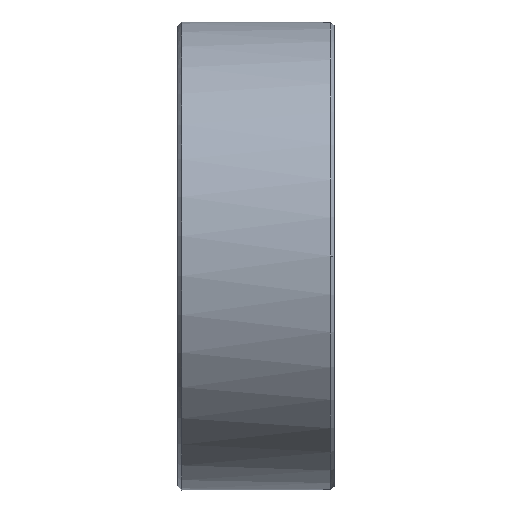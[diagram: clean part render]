
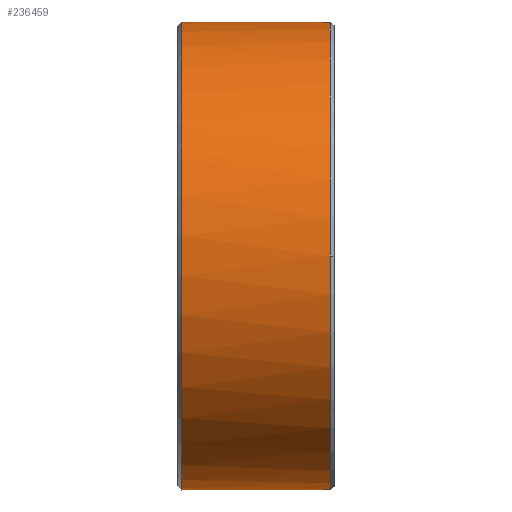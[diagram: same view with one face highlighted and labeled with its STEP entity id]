
A CAD part, left-side view. The second image highlights one B-rep face of the part: STEP entity #236459.
In plain terms, the highlighted cylindrical face has radius 38.1 mm (diameter 76.2 mm), a partial arc.
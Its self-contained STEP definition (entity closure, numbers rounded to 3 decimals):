
#2190 = CIRCLE ( 'NONE', #2205, 38.1 ) ;
#2205 = AXIS2_PLACEMENT_3D ( 'NONE', #68922, #68924, #68926 ) ;
#2412 = CIRCLE ( 'NONE', #2415, 38.1 ) ;
#2414 = VECTOR ( 'NONE', #69944, 1000. ) ;
#2415 = AXIS2_PLACEMENT_3D ( 'NONE', #69934, #69937, #69940 ) ;
#2417 = CIRCLE ( 'NONE', #119559, 38.1 ) ;
#5814 = EDGE_CURVE ( 'NONE', #174808, #174031, #2190, .T. ) ;
#6026 = EDGE_CURVE ( 'NONE', #175181, #174775, #2412, .T. ) ;
#6028 = EDGE_CURVE ( 'NONE', #174775, #174808, #69916, .T. ) ;
#6031 = EDGE_CURVE ( 'NONE', #174031, #175247, #2417, .T. ) ;
#6033 = EDGE_CURVE ( 'NONE', #175247, #175181, #69929, .T. ) ;
#53840 = CARTESIAN_POINT ( 'NONE',  ( 12.474, 24.8, -36. ) ) ;
#53996 = CARTESIAN_POINT ( 'NONE',  ( 12.474, 0.6, -36. ) ) ;
#61072 = EDGE_LOOP ( 'NONE', ( #210517, #210512, #210507, #210500, #210494 ) ) ;
#68922 = CARTESIAN_POINT ( 'NONE',  ( 0., 0.6, 0. ) ) ;
#68924 = DIRECTION ( 'NONE',  ( 0., 1., 0. ) ) ;
#68926 = DIRECTION ( 'NONE',  ( 0., 0., 1. ) ) ;
#69916 = LINE ( 'NONE', #69919, #2414 ) ;
#69919 = CARTESIAN_POINT ( 'NONE',  ( -12.474, 0., -36. ) ) ;
#69929 = LINE ( 'NONE', #69931, #120708 ) ;
#69931 = CARTESIAN_POINT ( 'NONE',  ( 12.474, 0., -36. ) ) ;
#69934 = CARTESIAN_POINT ( 'NONE',  ( 0., 24.8, 0. ) ) ;
#69937 = DIRECTION ( 'NONE',  ( 0., -1., 0. ) ) ;
#69940 = DIRECTION ( 'NONE',  ( 0., 0., -1. ) ) ;
#69944 = DIRECTION ( 'NONE',  ( 0., -1., 0. ) ) ;
#69956 = CARTESIAN_POINT ( 'NONE',  ( 0., 0.6, 0. ) ) ;
#69959 = DIRECTION ( 'NONE',  ( 0., 1., 0. ) ) ;
#69961 = DIRECTION ( 'NONE',  ( 0., 0., 1. ) ) ;
#69965 = DIRECTION ( 'NONE',  ( 0., 1., 0. ) ) ;
#119559 = AXIS2_PLACEMENT_3D ( 'NONE', #69956, #69959, #69961 ) ;
#120708 = VECTOR ( 'NONE', #69965, 1000. ) ;
#134719 = CARTESIAN_POINT ( 'NONE',  ( 0., 0.6, 38.1 ) ) ;
#137261 = CARTESIAN_POINT ( 'NONE',  ( -12.474, 24.8, -36. ) ) ;
#137331 = CARTESIAN_POINT ( 'NONE',  ( -12.474, 0.6, -36. ) ) ;
#174031 = VERTEX_POINT ( 'NONE', #134719 ) ;
#174775 = VERTEX_POINT ( 'NONE', #137261 ) ;
#174808 = VERTEX_POINT ( 'NONE', #137331 ) ;
#175181 = VERTEX_POINT ( 'NONE', #53840 ) ;
#175247 = VERTEX_POINT ( 'NONE', #53996 ) ;
#210494 = ORIENTED_EDGE ( 'NONE', *, *, #6033, .T. ) ;
#210500 = ORIENTED_EDGE ( 'NONE', *, *, #6031, .T. ) ;
#210507 = ORIENTED_EDGE ( 'NONE', *, *, #5814, .T. ) ;
#210512 = ORIENTED_EDGE ( 'NONE', *, *, #6028, .T. ) ;
#210517 = ORIENTED_EDGE ( 'NONE', *, *, #6026, .T. ) ;
#225469 = AXIS2_PLACEMENT_3D ( 'NONE', #231691, #231696, #231725 ) ;
#231691 = CARTESIAN_POINT ( 'NONE',  ( 0., 0., 0. ) ) ;
#231696 = DIRECTION ( 'NONE',  ( 0., -1., 0. ) ) ;
#231719 = CYLINDRICAL_SURFACE ( 'NONE', #225469, 38.1 ) ;
#231721 = FACE_OUTER_BOUND ( 'NONE', #61072, .T. ) ;
#231725 = DIRECTION ( 'NONE',  ( 0., 0., -1. ) ) ;
#236459 = ADVANCED_FACE ( 'NONE', ( #231721 ), #231719, .T. ) ;
